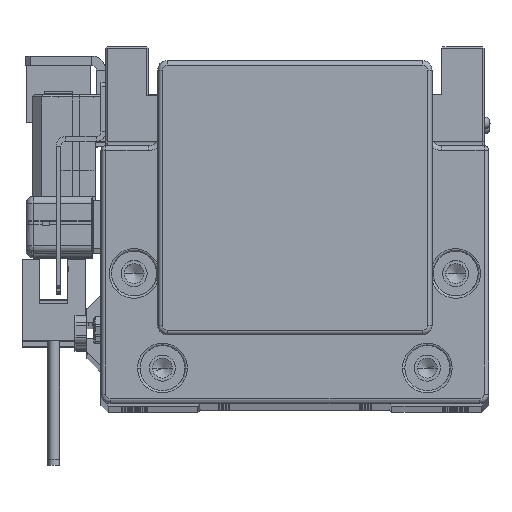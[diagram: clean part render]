
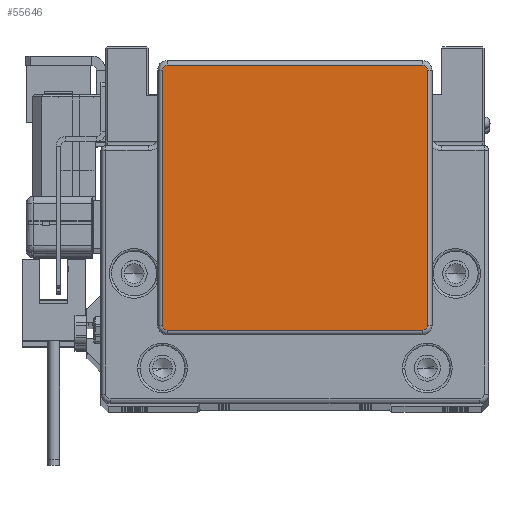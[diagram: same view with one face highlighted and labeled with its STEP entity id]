
A CAD part, top view. The second image highlights one B-rep face of the part: STEP entity #55646.
In plain terms, the highlighted planar face has unit normal (0, 0, 1).
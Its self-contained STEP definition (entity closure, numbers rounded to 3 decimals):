
#818 = ORIENTED_EDGE ( 'NONE', *, *, #30212, .T. ) ;
#1290 = DIRECTION ( 'NONE',  ( 1., 0., 0. ) ) ;
#1812 = EDGE_LOOP ( 'NONE', ( #25459, #43975, #56461, #6400, #33208, #5319, #818, #30882 ) ) ;
#2436 = CARTESIAN_POINT ( 'NONE',  ( 27., 34.25, 17. ) ) ;
#2535 = LINE ( 'NONE', #54387, #21398 ) ;
#5319 = ORIENTED_EDGE ( 'NONE', *, *, #56201, .T. ) ;
#6400 = ORIENTED_EDGE ( 'NONE', *, *, #22620, .T. ) ;
#6640 = DIRECTION ( 'NONE',  ( 1., 0., 0. ) ) ;
#6948 = CARTESIAN_POINT ( 'NONE',  ( -27., -19.75, 17. ) ) ;
#8022 = DIRECTION ( 'NONE',  ( 0., 0., 1. ) ) ;
#8380 = VERTEX_POINT ( 'NONE', #26362 ) ;
#9645 = AXIS2_PLACEMENT_3D ( 'NONE', #6948, #10984, #24027 ) ;
#10958 = VERTEX_POINT ( 'NONE', #30128 ) ;
#10984 = DIRECTION ( 'NONE',  ( 0., 0., 1. ) ) ;
#11278 = DIRECTION ( 'NONE',  ( 0., -1., 0. ) ) ;
#11523 = VERTEX_POINT ( 'NONE', #39003 ) ;
#12257 = EDGE_CURVE ( 'NONE', #54127, #39198, #20567, .T. ) ;
#12681 = AXIS2_PLACEMENT_3D ( 'NONE', #25879, #16361, #30490 ) ;
#13434 = AXIS2_PLACEMENT_3D ( 'NONE', #29699, #8022, #51465 ) ;
#13741 = VERTEX_POINT ( 'NONE', #40637 ) ;
#15084 = PLANE ( 'NONE',  #9645 ) ;
#16361 = DIRECTION ( 'NONE',  ( 0., 0., 1. ) ) ;
#18489 = CARTESIAN_POINT ( 'NONE',  ( -27., 34.25, 17. ) ) ;
#19406 = CARTESIAN_POINT ( 'NONE',  ( 27., -20.75, 17. ) ) ;
#20079 = CARTESIAN_POINT ( 'NONE',  ( 27., 35.25, 17. ) ) ;
#20546 = CARTESIAN_POINT ( 'NONE',  ( -28., -19.75, 17. ) ) ;
#20567 = CIRCLE ( 'NONE', #52947, 1. ) ;
#21398 = VECTOR ( 'NONE', #24552, 1000. ) ;
#21952 = AXIS2_PLACEMENT_3D ( 'NONE', #18489, #44502, #41021 ) ;
#22620 = EDGE_CURVE ( 'NONE', #10958, #13741, #29297, .T. ) ;
#23203 = EDGE_CURVE ( 'NONE', #13741, #8380, #32395, .T. ) ;
#23431 = CARTESIAN_POINT ( 'NONE',  ( 28., 34.25, 17. ) ) ;
#24027 = DIRECTION ( 'NONE',  ( 1., 0., 0. ) ) ;
#24552 = DIRECTION ( 'NONE',  ( -1., 0., 0. ) ) ;
#25434 = CIRCLE ( 'NONE', #13434, 1. ) ;
#25459 = ORIENTED_EDGE ( 'NONE', *, *, #57086, .T. ) ;
#25879 = CARTESIAN_POINT ( 'NONE',  ( -27., -19.75, 17. ) ) ;
#26362 = CARTESIAN_POINT ( 'NONE',  ( 27., -20.75, 17. ) ) ;
#28448 = VECTOR ( 'NONE', #32956, 1000. ) ;
#29297 = CIRCLE ( 'NONE', #12681, 1. ) ;
#29699 = CARTESIAN_POINT ( 'NONE',  ( 27., -19.75, 17. ) ) ;
#30128 = CARTESIAN_POINT ( 'NONE',  ( -28., -19.75, 17. ) ) ;
#30212 = EDGE_CURVE ( 'NONE', #41378, #54127, #50050, .T. ) ;
#30490 = DIRECTION ( 'NONE',  ( 1., 0., 0. ) ) ;
#30882 = ORIENTED_EDGE ( 'NONE', *, *, #12257, .T. ) ;
#32395 = LINE ( 'NONE', #19406, #46482 ) ;
#32956 = DIRECTION ( 'NONE',  ( 0., 1., 0. ) ) ;
#33208 = ORIENTED_EDGE ( 'NONE', *, *, #23203, .T. ) ;
#33909 = VERTEX_POINT ( 'NONE', #47789 ) ;
#37169 = CARTESIAN_POINT ( 'NONE',  ( 28., -19.75, 17. ) ) ;
#39003 = CARTESIAN_POINT ( 'NONE',  ( -27., 35.25, 17. ) ) ;
#39198 = VERTEX_POINT ( 'NONE', #20079 ) ;
#39497 = CIRCLE ( 'NONE', #21952, 1. ) ;
#40637 = CARTESIAN_POINT ( 'NONE',  ( -27., -20.75, 17. ) ) ;
#41021 = DIRECTION ( 'NONE',  ( 1., 0., 0. ) ) ;
#41156 = VECTOR ( 'NONE', #11278, 1000. ) ;
#41378 = VERTEX_POINT ( 'NONE', #37169 ) ;
#43975 = ORIENTED_EDGE ( 'NONE', *, *, #44600, .T. ) ;
#44502 = DIRECTION ( 'NONE',  ( 0., 0., 1. ) ) ;
#44600 = EDGE_CURVE ( 'NONE', #11523, #33909, #39497, .T. ) ;
#46128 = DIRECTION ( 'NONE',  ( 0., 0., 1. ) ) ;
#46290 = FACE_OUTER_BOUND ( 'NONE', #1812, .T. ) ;
#46482 = VECTOR ( 'NONE', #6640, 1000. ) ;
#47789 = CARTESIAN_POINT ( 'NONE',  ( -28., 34.25, 17. ) ) ;
#50050 = LINE ( 'NONE', #23431, #28448 ) ;
#51465 = DIRECTION ( 'NONE',  ( 1., 0., 0. ) ) ;
#51543 = LINE ( 'NONE', #20546, #41156 ) ;
#52947 = AXIS2_PLACEMENT_3D ( 'NONE', #2436, #46128, #1290 ) ;
#54127 = VERTEX_POINT ( 'NONE', #56224 ) ;
#54387 = CARTESIAN_POINT ( 'NONE',  ( -27., 35.25, 17. ) ) ;
#55646 = ADVANCED_FACE ( 'NONE', ( #46290 ), #15084, .T. ) ;
#56201 = EDGE_CURVE ( 'NONE', #8380, #41378, #25434, .T. ) ;
#56224 = CARTESIAN_POINT ( 'NONE',  ( 28., 34.25, 17. ) ) ;
#56461 = ORIENTED_EDGE ( 'NONE', *, *, #56590, .T. ) ;
#56590 = EDGE_CURVE ( 'NONE', #33909, #10958, #51543, .T. ) ;
#57086 = EDGE_CURVE ( 'NONE', #39198, #11523, #2535, .T. ) ;
